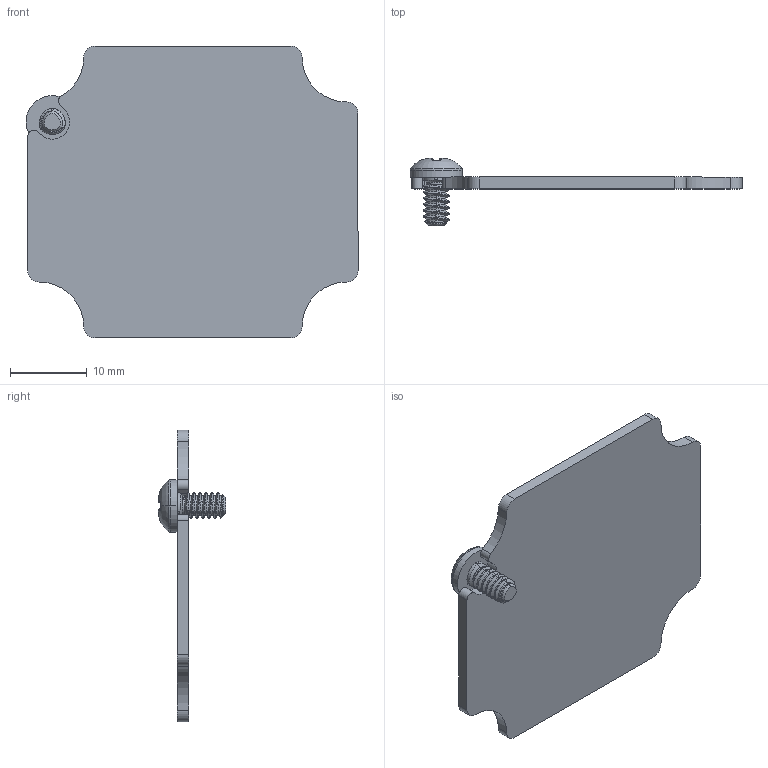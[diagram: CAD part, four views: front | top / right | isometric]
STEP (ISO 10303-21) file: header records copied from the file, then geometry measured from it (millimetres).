
FILE_DESCRIPTION (( 'STEP AP214' ), '1' );
FILE_NAME ('AN-11K.step', '2026-09-17T19:31:41', ( '' ), ( '' ), 'SwSTEP 2.0', 'SolidWorks 2026', '' );
FILE_SCHEMA (( 'AUTOMOTIVE_DESIGN' ));
Length unit declared in the file: inch
Products named in the file (3): AN-11-P_DEFAULT; AN-11K; SCREWS-050
Assembly tree (2 placements, depth 2):
  AN-11K
    AN-11-P_DEFAULT
    SCREWS-050
Bounding box: 43.33 x 8.8 x 38.1 mm (x, y, z)
Volume: 2288.8 mm3; surface area: 3293.3 mm2
Topology: 2 solids, 2 shells, 358 faces, 870 edges, 515 vertices
Faces by surface type: bspline 184, cylinder 93, plane 33, sphere 24, cone 20, torus 4
Entity records: 17123 total; most frequent: CARTESIAN_POINT 10016, ORIENTED_EDGE 1736, DIRECTION 1002, EDGE_CURVE 868, VERTEX_POINT 515, B_SPLINE_CURVE_WITH_KNOTS 415, AXIS2_PLACEMENT_3D 370, EDGE_LOOP 359
